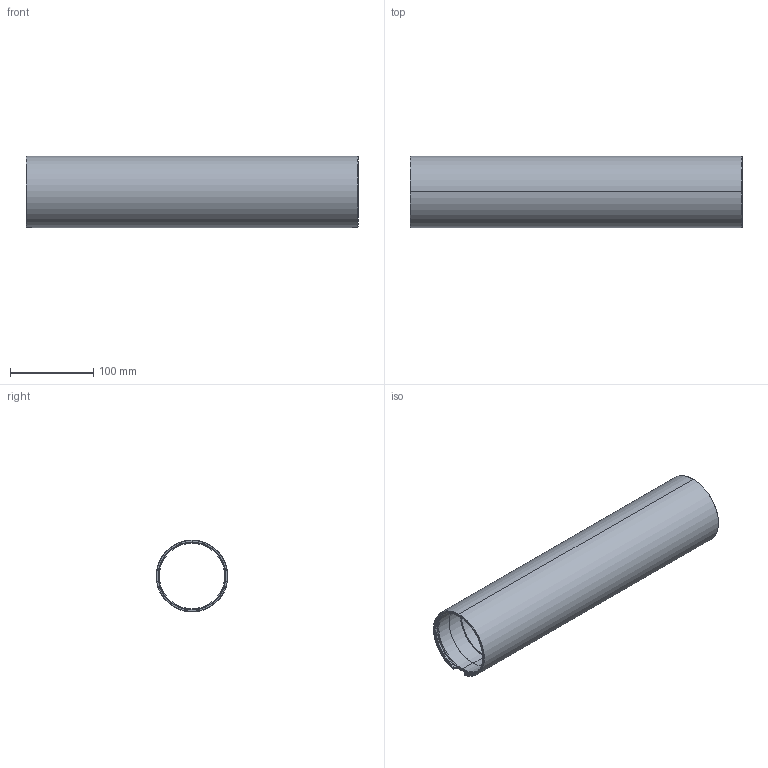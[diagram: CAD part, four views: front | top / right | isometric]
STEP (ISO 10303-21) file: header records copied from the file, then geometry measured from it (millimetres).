
FILE_DESCRIPTION (( 'STEP AP214' ), '1' );
FILE_NAME ('BR-100611-400_RevC.STEP', '2025-03-03T21:16:05', ( '' ), ( '' ), 'SwSTEP 2.0', 'SolidWorks 2024', '' );
FILE_SCHEMA (( 'AUTOMOTIVE_DESIGN' ));
Length unit declared in the file: millimetre
Products named in the file (1): BR-100611-400_RevC
Bounding box: 400 x 86.48 x 86.5 mm (x, y, z)
Volume: 363057 mm3; surface area: 210994 mm2
Topology: 1 solids, 1 shells, 96 faces, 244 edges, 152 vertices
Faces by surface type: cylinder 26, bspline 24, cone 18, plane 16, torus 12
Entity records: 5958 total; most frequent: CARTESIAN_POINT 3876, ORIENTED_EDGE 488, DIRECTION 346, EDGE_CURVE 244, VERTEX_POINT 152, AXIS2_PLACEMENT_3D 149, B_SPLINE_CURVE_WITH_KNOTS 116, EDGE_LOOP 100
